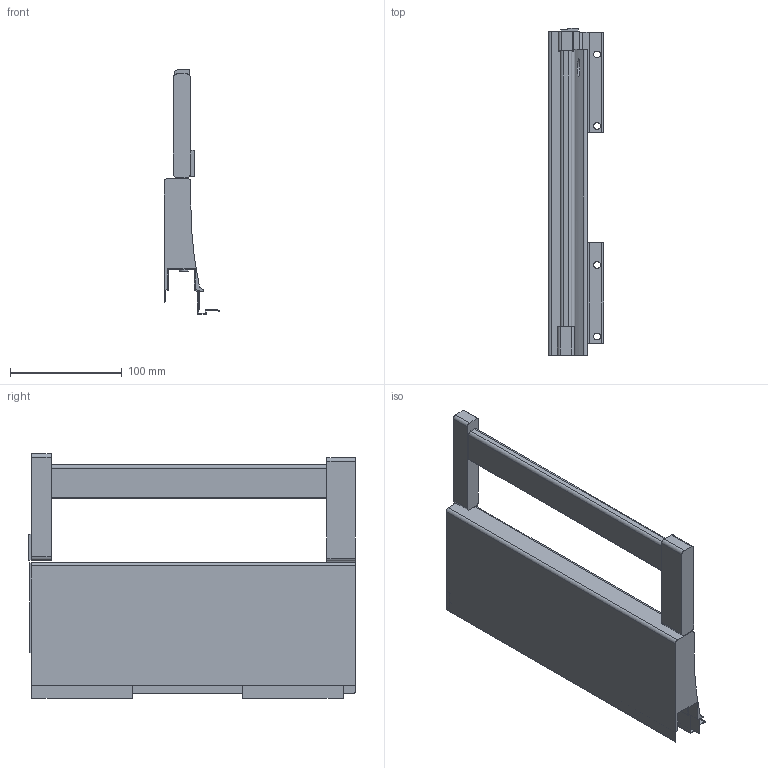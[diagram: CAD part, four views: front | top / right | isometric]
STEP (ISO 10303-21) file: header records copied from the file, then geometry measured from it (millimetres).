
FILE_DESCRIPTION (( 'STEP AP214' ), '1' );
FILE_NAME ('_XP Agantis Dekorseite H127 NL300 LI Rechteckreling.step', '2010-07-08T06:24:23', ( 'grass' ), ( '' ), 'SwSTEP 2.0', 'SolidWorks 2010', '' );
FILE_SCHEMA (( 'AUTOMOTIVE_DESIGN' ));
Length unit declared in the file: millimetre
Products named in the file (1): _XP Agantis Dekorseite H127 NL300 LI Rechteckreling
Bounding box: 50.01 x 292.45 x 219 mm (x, y, z)
Volume: 764266.9 mm3; surface area: 154270.7 mm2
Topology: 2 solids, 2 shells, 155 faces, 438 edges, 288 vertices
Faces by surface type: plane 118, cylinder 37
Entity records: 5119 total; most frequent: CARTESIAN_POINT 969, ORIENTED_EDGE 876, DIRECTION 821, EDGE_CURVE 438, LINE 363, VECTOR 363, VERTEX_POINT 288, AXIS2_PLACEMENT_3D 229
